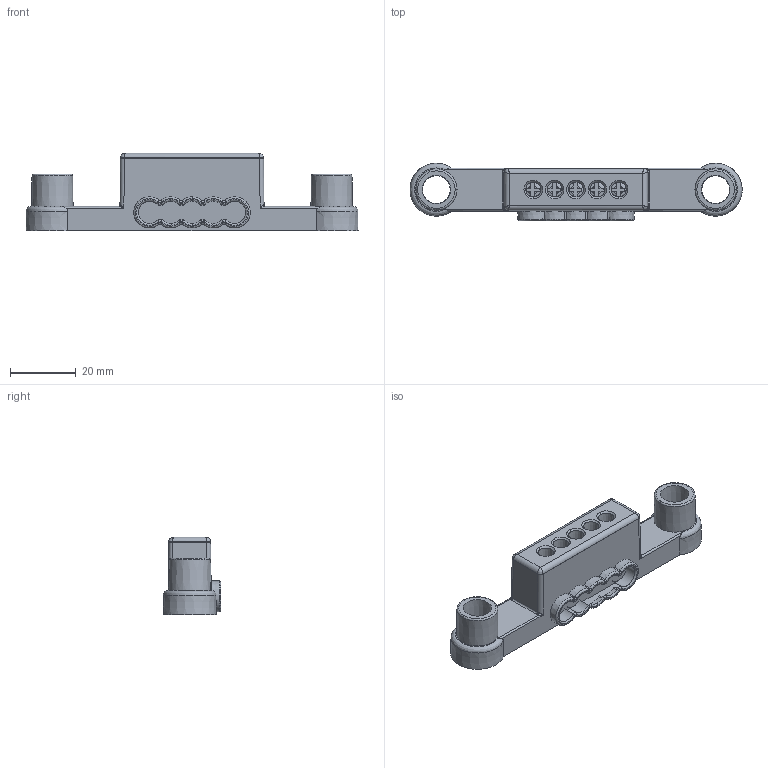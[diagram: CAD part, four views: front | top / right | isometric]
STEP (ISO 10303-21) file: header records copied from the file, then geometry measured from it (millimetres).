
FILE_DESCRIPTION(/* description */ (''),/* implementation_level */ '2;1');
FILE_NAME(/* name */ '4002541.stp',/* time_stamp */ '2016-09-22T12:08:30+02:00',/* author */ (''),/* organization */ (''),/* preprocessor_version */ 'ST-DEVELOPER v16',/* originating_system */ 'SIEMENS PLM Software NX 11.0',/* authorisation */ '');
FILE_SCHEMA (('AUTOMOTIVE_DESIGN { 1 0 10303 214 3 1 1 1 }'));
Length unit declared in the file: millimetre
Products named in the file (1): 4002541_LINKEDEXT_jt
Bounding box: 101.07 x 17.48 x 23.6 mm (x, y, z)
Surface area: 10486.9 mm2 (no closed solid volume)
Topology: 0 solids, 20 shells, 218 faces, 728 edges, 512 vertices
Faces by surface type: bspline 85, plane 66, cylinder 35, cone 32
Full cylindrical faces by diameter (mm): 4 x5
Entity records: 16840 total; most frequent: CARTESIAN_POINT 10126, ORIENTED_EDGE 1075, DIRECTION 794, EDGE_CURVE 690, VERTEX_POINT 510, B_SPLINE_CURVE_WITH_KNOTS 289, LINE 276, VECTOR 276
